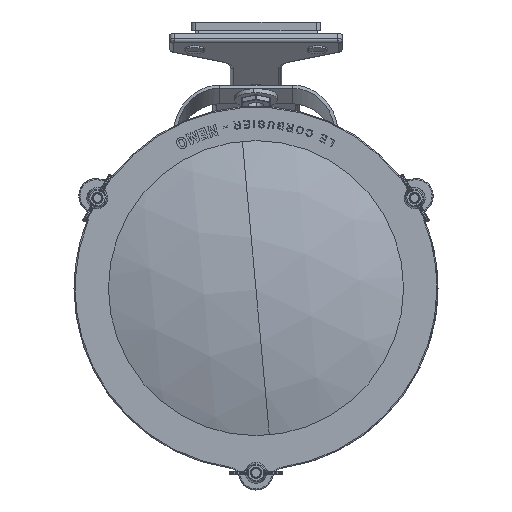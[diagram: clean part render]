
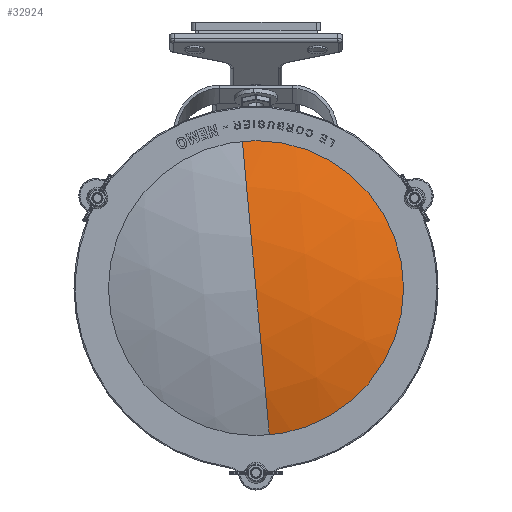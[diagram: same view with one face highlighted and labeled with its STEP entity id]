
A CAD part, front view. The second image highlights one B-rep face of the part: STEP entity #32924.
In plain terms, the highlighted spherical face has radius 216.138 mm.
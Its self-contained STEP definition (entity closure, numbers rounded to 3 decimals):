
#20 = DIRECTION ( 'NONE',  ( 0., 0., 1. ) ) ;
#1402 = EDGE_LOOP ( 'NONE', ( #18996, #15050, #39045, #7812 ) ) ;
#1863 = CIRCLE ( 'NONE', #22741, 71.5 ) ;
#7567 = CARTESIAN_POINT ( 'NONE',  ( 0., 0., 15. ) ) ;
#7812 = ORIENTED_EDGE ( 'NONE', *, *, #41230, .T. ) ;
#10111 = FACE_OUTER_BOUND ( 'NONE', #1402, .T. ) ;
#12455 = CARTESIAN_POINT ( 'NONE',  ( 0., 71.5, 2.831 ) ) ;
#13890 = CIRCLE ( 'NONE', #24484, 71.5 ) ;
#15050 = ORIENTED_EDGE ( 'NONE', *, *, #36742, .T. ) ;
#16968 = VERTEX_POINT ( 'NONE', #12455 ) ;
#18518 = VERTEX_POINT ( 'NONE', #52270 ) ;
#18930 = CARTESIAN_POINT ( 'NONE',  ( 0., 0., 2.831 ) ) ;
#18996 = ORIENTED_EDGE ( 'NONE', *, *, #32127, .F. ) ;
#21193 = CARTESIAN_POINT ( 'NONE',  ( 0., 0., -201.138 ) ) ;
#22741 = AXIS2_PLACEMENT_3D ( 'NONE', #27410, #20, #32045 ) ;
#23520 = DIRECTION ( 'NONE',  ( 1., 0., 0. ) ) ;
#23851 = CARTESIAN_POINT ( 'NONE',  ( 0., 0., -201.138 ) ) ;
#24484 = AXIS2_PLACEMENT_3D ( 'NONE', #18930, #50954, #23520 ) ;
#25781 = DIRECTION ( 'NONE',  ( 0., -1., 0. ) ) ;
#26490 = DIRECTION ( 'NONE',  ( -1., 0., 0. ) ) ;
#27410 = CARTESIAN_POINT ( 'NONE',  ( 0., 0., 2.831 ) ) ;
#28451 = DIRECTION ( 'NONE',  ( 0., 0., -1. ) ) ;
#32045 = DIRECTION ( 'NONE',  ( 1., 0., 0. ) ) ;
#32127 = EDGE_CURVE ( 'NONE', #18518, #42139, #38751, .T. ) ;
#32715 = CIRCLE ( 'NONE', #52227, 216.138 ) ;
#32924 = ADVANCED_FACE ( 'NONE', ( #10111 ), #38760, .T. ) ;
#34622 = AXIS2_PLACEMENT_3D ( 'NONE', #49317, #26490, #58530 ) ;
#36742 = EDGE_CURVE ( 'NONE', #18518, #37484, #13890, .T. ) ;
#37484 = VERTEX_POINT ( 'NONE', #38114 ) ;
#38114 = CARTESIAN_POINT ( 'NONE',  ( 71.5, 0., 2.831 ) ) ;
#38751 = CIRCLE ( 'NONE', #56457, 216.138 ) ;
#38760 = SPHERICAL_SURFACE ( 'NONE', #34622, 216.138 ) ;
#39045 = ORIENTED_EDGE ( 'NONE', *, *, #42985, .T. ) ;
#41230 = EDGE_CURVE ( 'NONE', #16968, #42139, #32715, .T. ) ;
#42139 = VERTEX_POINT ( 'NONE', #7567 ) ;
#42985 = EDGE_CURVE ( 'NONE', #37484, #16968, #1863, .T. ) ;
#49317 = CARTESIAN_POINT ( 'NONE',  ( 0., 0., -201.138 ) ) ;
#50954 = DIRECTION ( 'NONE',  ( 0., 0., 1. ) ) ;
#52227 = AXIS2_PLACEMENT_3D ( 'NONE', #23851, #55867, #28451 ) ;
#52270 = CARTESIAN_POINT ( 'NONE',  ( 0., -71.5, 2.831 ) ) ;
#53233 = DIRECTION ( 'NONE',  ( -1., 0., 0. ) ) ;
#55867 = DIRECTION ( 'NONE',  ( 1., 0., 0. ) ) ;
#56457 = AXIS2_PLACEMENT_3D ( 'NONE', #21193, #53233, #25781 ) ;
#58530 = DIRECTION ( 'NONE',  ( 0., 1., 0. ) ) ;
